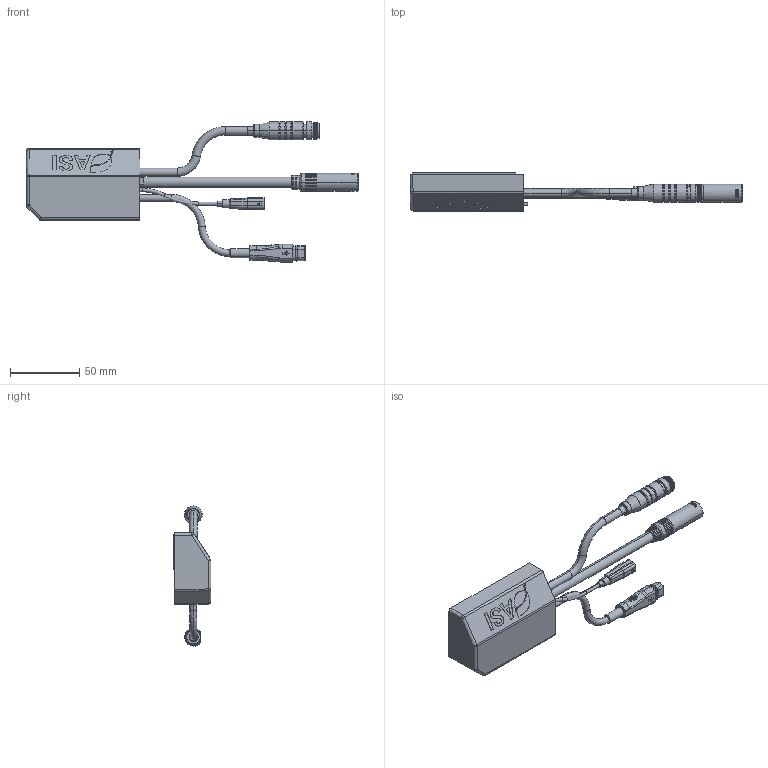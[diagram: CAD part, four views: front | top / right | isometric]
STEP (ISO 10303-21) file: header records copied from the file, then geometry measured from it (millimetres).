
FILE_DESCRIPTION (( 'STEP AP214' ), '1' );
FILE_NAME ('060-001036-02 - BAC355 STANDARD WATERPROOF INTERFACE.STEP', '2024-11-11T14:15:47', ( '' ), ( '' ), 'SwSTEP 2.0', 'SolidWorks 2021', '' );
FILE_SCHEMA (( 'AUTOMOTIVE_DESIGN' ));
Length unit declared in the file: millimetre
Products named in the file (1): 060-001036-02 - BAC355 STANDARD WATERPROOF INTERFACE
Bounding box: 240.56 x 27.5 x 101.63 mm (x, y, z)
Volume: 130007.9 mm3; surface area: 40985.3 mm2
Topology: 17 solids, 23 shells, 1671 faces, 4100 edges, 2591 vertices
Faces by surface type: plane 774, cylinder 504, torus 160, cone 126, bspline 103, sphere 4
Entity records: 72928 total; most frequent: CARTESIAN_POINT 15090, ORIENTED_EDGE 8192, DIRECTION 8160, EDGE_CURVE 4096, AXIS2_PLACEMENT_3D 3040, VERTEX_POINT 2591, LINE 2080, VECTOR 2080
